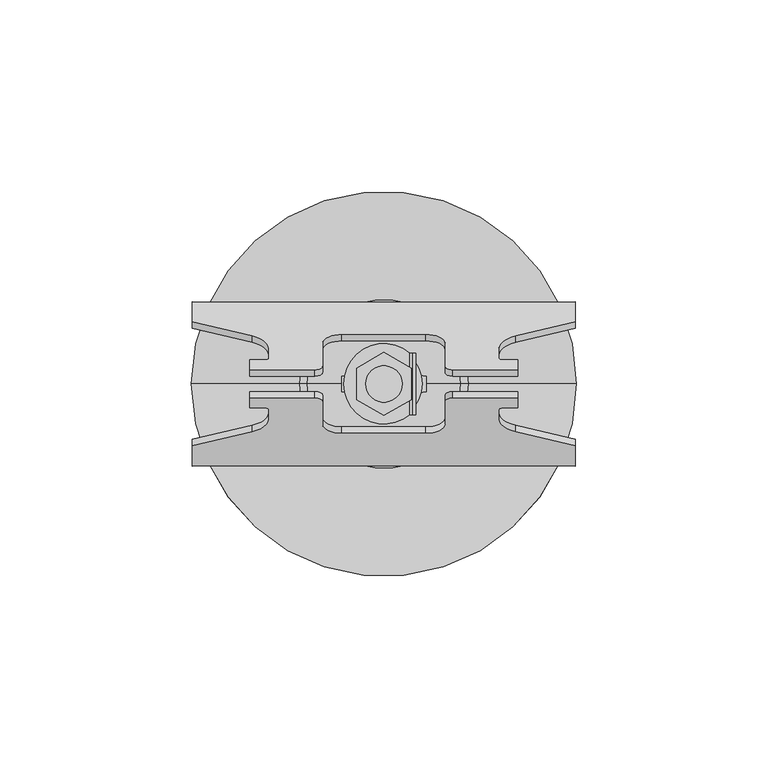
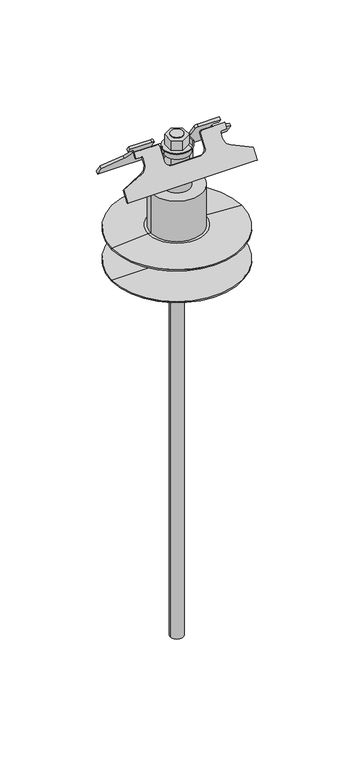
"""IFC4 building model written with IfcOpenShell, lengths in millimetres: proxy geometry, Kwiktrak Track Bracket (Bracket & Threaded Rod & Ceiling Plate) - ARJO - Revit2017 - REV0 : AH-Kwiktrak track bracket."""

from ifc_helpers import new_model, si_unit, point, frame, frame_2d, origin, origin_with_axes, origin_2d, place, context, project, spatial, polyline, circle_curve, ellipse_curve, trimmed, segment, composite_curve, outline, extrude, source, transform, mapped, element, save
from ifc_brep_helpers import plane_surface, cylinder_surface, revolved_surface, extruded_surface, advanced_brep


def specialty_equipment_05e438e0(model_context):
    return source(origin(), model_context, "Body", "SolidModel", [
        extrude(outline(composite_curve([segment(trimmed(circle_curve(frame_2d((-11.0457639, -6.432)), 4.4), [point((-7.2434355, -4.2178864))], [point((-11.0457639, -2.032))], True, "CARTESIAN"), True, "CONTINUOUS"), segment(polyline([(-11.0457639, -2.032), (-11.0457639, 2.032)]), True, "CONTINUOUS"), segment(trimmed(circle_curve(frame_2d((-11.0457639, 6.432)), 4.4), [point((-11.0457639, 2.032))], [point((-7.2434355, 4.2178864))], True, "CARTESIAN"), True, "CONTINUOUS"), segment(trimmed(circle_curve(origin_2d(), 8.382), [point((-7.2434355, 4.2178864))], [point((7.2434355, 4.2178864))], False, "CARTESIAN"), True, "CONTINUOUS"), segment(trimmed(circle_curve(frame_2d((11.0457639, 6.432)), 4.4), [point((7.2434355, 4.2178864))], [point((11.0457639, 2.032))], True, "CARTESIAN"), True, "CONTINUOUS"), segment(polyline([(11.0457639, 2.032), (11.0457639, -2.032)]), True, "CONTINUOUS"), segment(trimmed(circle_curve(frame_2d((11.0457639, -6.432)), 4.4), [point((11.0457639, -2.032))], [point((7.2434355, -4.2178864))], True, "CARTESIAN"), True, "CONTINUOUS"), segment(trimmed(circle_curve(origin_2d(), 8.382), [point((7.2434355, -4.2178864))], [point((-7.2434355, -4.2178864))], False, "CARTESIAN"), True, "CONTINUOUS")], self_intersect=False)), frame((0.0, 0.0, 52.6432413), z_axis=(0.0, 0.0, 1.0), x_axis=(1.0, 0.0, 0.0)), (0.0, 0.0, 1.0), 10.7557441),
        advanced_brep(
        [(-10.0, 0.0, 41.8115), (-10.0, 0.0, 35.8632413), (10.0, 0.0, 35.8632413), (10.0, 0.0, 41.8115), (-8.0161454, 0.0, 42.3315717), (-9.4977725, 0.0, 42.3315717), (9.4977725, 0.0, 42.3315717), (8.0161454, 0.0, 42.3315717), (-7.5, 0.0, 52.6432413), (-7.5, 0.0, 42.9176284), (7.5, 0.0, 42.9176284), (7.5, 0.0, 52.6432413), (0.0, 0.0, 52.6432413), (0.0, 0.0, 35.8632413)],
        [
            (0, 1),
            (1, 2, circle_curve(frame((0.0, 0.0, 35.8632413), z_axis=(0.0, 0.0, 1.0), x_axis=(1.0, 0.0, 0.0)), 10.0)),
            (2, 3),
            (3, 0, circle_curve(frame((0.0, 0.0, 41.8115), z_axis=(0.0, 0.0, -1.0), x_axis=(1.0, 0.0, 0.0)), 10.0)),
            (2, 1, circle_curve(frame((0.0, 0.0, 35.8632413), z_axis=(0.0, 0.0, 1.0), x_axis=(1.0, 0.0, 0.0)), 10.0)),
            (0, 3, circle_curve(frame((0.0, 0.0, 41.8115), z_axis=(0.0, 0.0, -1.0), x_axis=(1.0, 0.0, 0.0)), 10.0)),
            (4, 5),
            (5, 6, circle_curve(frame((0.0, 0.0, 42.3315717), z_axis=(0.0, 0.0, 1.0), x_axis=(1.0, 0.0, 0.0)), 9.4977725)),
            (6, 7),
            (7, 4, circle_curve(frame((0.0, 0.0, 42.3315717), z_axis=(0.0, 0.0, -1.0), x_axis=(1.0, 0.0, 0.0)), 8.0161454)),
            (6, 5, circle_curve(frame((0.0, 0.0, 42.3315717), z_axis=(0.0, 0.0, 1.0), x_axis=(1.0, 0.0, 0.0)), 9.4977725)),
            (4, 7, circle_curve(frame((0.0, 0.0, 42.3315717), z_axis=(0.0, 0.0, -1.0), x_axis=(1.0, 0.0, 0.0)), 8.0161454)),
            (8, 9),
            (9, 10, circle_curve(frame((0.0, 0.0, 42.9176284), z_axis=(0.0, 0.0, 1.0), x_axis=(1.0, 0.0, 0.0)), 7.5)),
            (10, 11),
            (11, 8, circle_curve(frame((0.0, 0.0, 52.6432413), z_axis=(0.0, 0.0, -1.0), x_axis=(1.0, 0.0, 0.0)), 7.5)),
            (10, 9, circle_curve(frame((0.0, 0.0, 42.9176284), z_axis=(0.0, 0.0, 1.0), x_axis=(1.0, 0.0, 0.0)), 7.5)),
            (8, 11, circle_curve(frame((0.0, 0.0, 52.6432413), z_axis=(0.0, 0.0, -1.0), x_axis=(1.0, 0.0, 0.0)), 7.5)),
            (12, 8),
            (11, 12),
            (1, 13),
            (13, 2),
            (5, 0, circle_curve(frame((-9.4796112, 0.0, 41.8115), z_axis=(0.0, -1.0, 0.0), x_axis=(-1.0, 0.0, 0.0)), 0.5203888)),
            (3, 6, circle_curve(frame((9.4796112, 0.0, 41.8115), z_axis=(0.0, -1.0, 0.0), x_axis=(1.0, 0.0, 0.0)), 0.5203888)),
            (9, 4, circle_curve(frame((-8.0346369, 0.0, 42.9176284), z_axis=(0.0, 1.0, 0.0), x_axis=(-1.0, 0.0, 0.0)), 0.5346369)),
            (7, 10, circle_curve(frame((8.0346369, 0.0, 42.9176284), z_axis=(0.0, 1.0, 0.0), x_axis=(1.0, 0.0, 0.0)), 0.5346369)),
        ],
        [
            cylinder_surface(frame((0.0, 0.0, 1989.6192677), z_axis=(0.0, 0.0, 1.0), x_axis=(1.0, 0.0, 0.0)), 10.0),
            plane_surface(frame((0.0, 0.0, 42.3315717), z_axis=(0.0, 0.0, 1.0), x_axis=(1.0, 0.0, 0.0))),
            cylinder_surface(frame((0.0, 0.0, 1989.6192677), z_axis=(0.0, 0.0, 1.0), x_axis=(1.0, 0.0, 0.0)), 7.5),
            plane_surface(frame((0.0, 0.0, 52.6432413), z_axis=(0.0, 0.0, 1.0), x_axis=(1.0, 0.0, 0.0))),
            plane_surface(frame((0.0, 0.0, 35.8632413), z_axis=(0.0, 0.0, -1.0), x_axis=(1.0, 0.0, 0.0))),
            revolved_surface(trimmed(ellipse_curve(frame((9.4796112, 0.0, 41.8115), z_axis=(0.0, -1.0, 0.0), x_axis=(1.0, 0.0, 0.0)), 0.5203888, 0.5203888), [point((10.0, 0.0, 41.8115))], [point((9.4977725, 0.0, 42.3315717))], True, "CARTESIAN"), (0.0, 0.0, 1989.6192677), (0.0, 0.0, 1.0)),
            revolved_surface(trimmed(ellipse_curve(frame((8.0346369, 0.0, 42.9176284), z_axis=(0.0, 1.0, 0.0), x_axis=(1.0, 0.0, 0.0)), 0.5346369, 0.5346369), [point((8.0159784, 0.0, 42.3833171))], [point((7.5, 0.0, 42.9176284))], True, "CARTESIAN"), (0.0, 0.0, 1989.6192677), (0.0, 0.0, 1.0)),
        ],
        [
            (0, [[1, 2, 3, 4]]),
            (0, [[-3, 5, -1, 6]]),
            (1, [[7, 8, 9, 10]]),
            (1, [[-9, 11, -7, 12]]),
            (2, [[13, 14, 15, 16]]),
            (2, [[-15, 17, -13, 18]]),
            (3, [[19, -16, 20]]),
            (3, [[-20, -18, -19]]),
            (4, [[21, 22, -2]]),
            (4, [[-22, -21, -5]]),
            (5, [[23, -4, 24, -8]]),
            (5, [[-24, -6, -23, -11]]),
            (6, [[25, -10, 26, -14]]),
            (6, [[-26, -12, -25, -17]]),
        ],
    ),
        extrude(outline(composite_curve([segment(trimmed(circle_curve(frame_2d((69.2180114, 6.75)), 0.7447701), [point((69.2180114, 7.4947701))], [point((68.4732413, 6.75))], True, "CARTESIAN"), True, "CONTINUOUS"), segment(polyline([(68.4732413, 6.75), (67.6732413, 6.75)]), True, "CONTINUOUS"), segment(trimmed(circle_curve(frame_2d((69.2180114, 6.75)), 1.5447701), [point((67.6732413, 6.75))], [point((69.2180114, 8.2947701))], False, "CARTESIAN"), True, "CONTINUOUS"), segment(polyline([(69.2180114, 8.2947701), (73.9063719, 8.2947701), (73.9063719, 7.4947701), (69.2180114, 7.4947701)]), True, "CONTINUOUS")], self_intersect=False)), frame((0.0, -8.042854, 0.0), z_axis=(0.0, 1.0, 0.0), x_axis=(0.0, 0.0, 1.0)), (0.0, 0.0, 1.0), 16.0857079),
        extrude(outline(composite_curve([segment(polyline([(6.75, 8.042854), (6.75, -8.042854)]), True, "CONTINUOUS"), segment(trimmed(circle_curve(origin_2d(), 10.5), [point((6.75, -8.042854))], [point((6.75, 8.042854))], False, "CARTESIAN"), True, "CONTINUOUS")], self_intersect=False)), frame((0.0, 0.0, 67.6732413), z_axis=(0.0, 0.0, 1.0), x_axis=(1.0, 0.0, 0.0)), (0.0, 0.0, 1.0), 0.8),
        extrude(outline(composite_curve([segment(trimmed(circle_curve(origin_2d(), 10.0), [point((-10.0, 0.0))], [point((10.0, 0.0))], False, "CARTESIAN"), True, "CONTINUOUS"), segment(trimmed(circle_curve(origin_2d(), 10.0), [point((10.0, 0.0))], [point((-10.0, 0.0))], False, "CARTESIAN"), True, "CONTINUOUS")], self_intersect=False)), frame((0.0, 0.0, 63.3520872), z_axis=(0.0, 0.0, 1.0), x_axis=(1.0, 0.0, 0.0)), (0.0, 0.0, 1.0), 4.321154),
        advanced_brep(
        [(-30.0, -6.7435928, 72.2514851), (-30.0, -9.1615899, 68.7594538), (-34.4018702, -12.5057424, 63.9298843), (-50.0, -16.1820364, 58.6206415), (-50.0, -21.4664808, 50.9889346), (-48.0, -21.3494734, 51.1579148), (48.0, -21.3494734, 51.1579148), (50.0, -21.4664808, 50.9889346), (50.0, -16.1820364, 58.6206415), (34.4018702, -12.5057424, 63.9298843), (30.0, -9.1615899, 68.7594538), (30.0, -6.7435928, 72.2514851), (31.0, -6.275563, 72.927406), (35.0, -6.275563, 72.927406), (35.0, -3.7095132, 76.6332526), (18.0, -3.7095132, 76.6332526), (16.0, -4.6455727, 75.2814109), (16.0, -10.5656792, 66.7316914), (11.0, -12.9058281, 63.3520872), (-11.0, -12.9058281, 63.3520872), (-16.0, -10.5656792, 66.7316914), (-16.0, -4.6455727, 75.2814109), (-18.0, -3.7095132, 76.6332526), (-35.0, -3.7095132, 76.6332526), (-35.0, -6.275563, 72.927406), (-31.0, -6.275563, 72.927406), (-30.0, -5.0713515, 71.0935704), (-31.0, -4.6033217, 71.7694912), (-35.0, -4.6033217, 71.7694912), (-35.0, -2.0372719, 75.4753378), (-18.0, -2.0372719, 75.4753378), (-16.0, -2.9733314, 74.1234961), (-16.0, -8.8934379, 65.5737766), (-11.0, -11.2335867, 62.1941725), (11.0, -11.2335867, 62.1941725), (16.0, -8.8934379, 65.5737766), (16.0, -2.9733314, 74.1234961), (18.0, -2.0372719, 75.4753378), (35.0, -2.0372719, 75.4753378), (35.0, -4.6033217, 71.7694912), (31.0, -4.6033217, 71.7694912), (30.0, -5.0713515, 71.0935704), (30.0, -7.4893486, 67.6015391), (34.4018702, -10.8335011, 62.7719695), (50.0, -14.5097951, 57.4627267), (50.0, -19.7942395, 49.8310198), (48.0, -19.6772321, 50.0), (-48.0, -19.6772321, 50.0), (-50.0, -19.7942395, 49.8310198), (-50.0, -14.5097951, 57.4627267), (-34.4018702, -10.8335011, 62.7719695), (-30.0, -7.4893486, 67.6015391)],
        [
            (0, 1),
            (1, 2, ellipse_curve(frame((-38.0, -9.1615899, 68.7594538), z_axis=(0.0, 0.8221440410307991, -0.5692795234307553), x_axis=(-1.0, 0.0, 0.0)), 8.0, 6.5771523)),
            (2, 3),
            (3, 4),
            (4, 5),
            (5, 6),
            (6, 7),
            (7, 8),
            (8, 9),
            (9, 10, ellipse_curve(frame((38.0, -9.1615899, 68.7594538), z_axis=(0.0, 0.8221440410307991, -0.5692795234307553), x_axis=(-1.0, 0.0, 0.0)), 8.0, 6.5771523)),
            (10, 11),
            (11, 12, ellipse_curve(frame((31.0, -6.7435928, 72.2514851), z_axis=(0.0, 0.8221440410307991, -0.5692795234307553), x_axis=(-1.0, 0.0, 0.0)), 1.0, 0.822144)),
            (12, 13),
            (13, 14),
            (14, 15),
            (15, 16, ellipse_curve(frame((18.0, -4.6455727, 75.2814109), z_axis=(0.0, -0.8221440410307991, 0.5692795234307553), x_axis=(1.0, 0.0, 0.0)), 2.0, 1.6442881)),
            (16, 17),
            (17, 18, ellipse_curve(frame((11.0, -10.5656792, 66.7316914), z_axis=(0.0, 0.8221440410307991, -0.5692795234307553), x_axis=(1.0, 0.0, 0.0)), 5.0, 4.1107202)),
            (18, 19),
            (19, 20, ellipse_curve(frame((-11.0, -10.5656792, 66.7316914), z_axis=(0.0, 0.8221440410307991, -0.5692795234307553), x_axis=(1.0, 0.0, 0.0)), 5.0, 4.1107202)),
            (20, 21),
            (21, 22, ellipse_curve(frame((-18.0, -4.6455727, 75.2814109), z_axis=(0.0, -0.8221440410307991, 0.5692795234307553), x_axis=(1.0, 0.0, 0.0)), 2.0, 1.6442881)),
            (22, 23),
            (23, 24),
            (24, 25),
            (25, 0, ellipse_curve(frame((-31.0, -6.7435928, 72.2514851), z_axis=(0.0, 0.8221440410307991, -0.5692795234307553), x_axis=(-1.0, 0.0, 0.0)), 1.0, 0.822144)),
            (26, 27, ellipse_curve(frame((-31.0, -5.0713515, 71.0935704), z_axis=(0.0, -0.8221440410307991, 0.5692795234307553), x_axis=(-1.0, 0.0, 0.0)), 1.0, 0.822144)),
            (27, 28),
            (28, 29),
            (29, 30),
            (30, 31, ellipse_curve(frame((-18.0, -2.9733314, 74.1234961), z_axis=(0.0, 0.8221440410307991, -0.5692795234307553), x_axis=(1.0, 0.0, 0.0)), 2.0, 1.6442881)),
            (31, 32),
            (32, 33, ellipse_curve(frame((-11.0, -8.8934379, 65.5737766), z_axis=(0.0, -0.8221440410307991, 0.5692795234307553), x_axis=(1.0, 0.0, 0.0)), 5.0, 4.1107202)),
            (33, 34),
            (34, 35, ellipse_curve(frame((11.0, -8.8934379, 65.5737766), z_axis=(0.0, -0.8221440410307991, 0.5692795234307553), x_axis=(1.0, 0.0, 0.0)), 5.0, 4.1107202)),
            (35, 36),
            (36, 37, ellipse_curve(frame((18.0, -2.9733314, 74.1234961), z_axis=(0.0, 0.8221440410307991, -0.5692795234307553), x_axis=(1.0, 0.0, 0.0)), 2.0, 1.6442881)),
            (37, 38),
            (38, 39),
            (39, 40),
            (40, 41, ellipse_curve(frame((31.0, -5.0713515, 71.0935704), z_axis=(0.0, -0.8221440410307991, 0.5692795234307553), x_axis=(-1.0, 0.0, 0.0)), 1.0, 0.822144)),
            (41, 42),
            (42, 43, ellipse_curve(frame((38.0, -7.4893486, 67.6015391), z_axis=(0.0, -0.8221440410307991, 0.5692795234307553), x_axis=(-1.0, 0.0, 0.0)), 8.0, 6.5771523)),
            (43, 44),
            (44, 45),
            (45, 46),
            (46, 47),
            (47, 48),
            (48, 49),
            (49, 50),
            (50, 51, ellipse_curve(frame((-38.0, -7.4893486, 67.6015391), z_axis=(0.0, -0.8221440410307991, 0.5692795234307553), x_axis=(-1.0, 0.0, 0.0)), 8.0, 6.5771523)),
            (51, 26),
            (0, 26),
            (51, 1),
            (50, 2),
            (49, 3),
            (48, 4),
            (47, 5),
            (46, 6),
            (45, 7),
            (44, 8),
            (43, 9),
            (42, 10),
            (41, 11),
            (40, 12),
            (39, 13),
            (38, 14),
            (37, 15),
            (36, 16),
            (35, 17),
            (34, 18),
            (33, 19),
            (32, 20),
            (31, 21),
            (30, 22),
            (29, 23),
            (28, 24),
            (27, 25),
        ],
        [
            plane_surface(frame((-32.0, -6.7435928, 72.2514851), z_axis=(0.0, -0.8221440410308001, 0.5692795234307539), x_axis=(0.0, -0.5692795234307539, -0.8221440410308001))),
            plane_surface(frame((-32.0, -5.0713515, 71.0935704), z_axis=(0.0, 0.8221440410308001, -0.5692795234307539), x_axis=(0.0, 0.5692795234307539, 0.8221440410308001))),
            plane_surface(frame((-30.0, -9.1615899, 68.7594538), z_axis=(-1.0, 0.0, 0.0), x_axis=(0.0, 0.8221440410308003, -0.5692795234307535))),
            extruded_surface(trimmed(ellipse_curve(frame((-38.0, -7.4893486, 67.6015391), z_axis=(0.0, -0.8221440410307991, 0.5692795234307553), x_axis=(-1.0, 0.0, 0.0)), 8.0, 6.5771523), [point((-34.4018702, -10.8335011, 62.7719695))], [point((-30.0, -7.4893486, 67.6015391))], True, "CARTESIAN"), (0.0, 1.6722412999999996, -1.1579148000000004), 2.034000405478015),
            plane_surface(frame((-50.0, -16.1820364, 58.6206415), z_axis=(-0.38252387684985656, 0.5259833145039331, 0.7596163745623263), x_axis=(0.0, 0.8221440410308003, -0.5692795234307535))),
            plane_surface(frame((-50.0, -21.4664808, 50.9889346), z_axis=(-1.0, 0.0, 0.0), x_axis=(0.0, 0.8221440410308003, -0.5692795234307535))),
            plane_surface(frame((-48.0, -21.3494734, 51.1579148), z_axis=(0.10222958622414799, -0.5662969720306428, -0.8178366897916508), x_axis=(0.0, 0.8221440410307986, -0.5692795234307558))),
            plane_surface(frame((48.0, -21.3494734, 51.1579148), z_axis=(0.0, -0.5692795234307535, -0.8221440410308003), x_axis=(0.0, 0.8221440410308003, -0.5692795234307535))),
            plane_surface(frame((50.0, -21.4664808, 50.9889346), z_axis=(-0.10222958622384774, -0.5662969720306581, -0.8178366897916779), x_axis=(0.0, 0.8221440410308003, -0.5692795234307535))),
            plane_surface(frame((50.0, -16.1820364, 58.6206415), z_axis=(1.0, 0.0, 0.0), x_axis=(0.0, 0.822144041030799, -0.5692795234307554))),
            plane_surface(frame((34.4018702, -12.5057424, 63.9298843), z_axis=(0.3825238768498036, 0.5259833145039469, 0.7596163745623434), x_axis=(0.0, 0.8221440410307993, -0.5692795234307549))),
            extruded_surface(trimmed(ellipse_curve(frame((38.0, -7.4893486, 67.6015391), z_axis=(0.0, -0.8221440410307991, 0.5692795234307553), x_axis=(-1.0, 0.0, 0.0)), 8.0, 6.5771523), [point((30.0, -7.4893486, 67.6015391))], [point((34.4018702, -10.8335011, 62.7719695))], True, "CARTESIAN"), (0.0, 1.6722412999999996, -1.1579148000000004), 2.034000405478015),
            plane_surface(frame((30.0, -6.7435928, 72.2514851), z_axis=(1.0, 0.0, 0.0), x_axis=(0.0, 0.8221440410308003, -0.5692795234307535))),
            extruded_surface(trimmed(ellipse_curve(frame((31.0, -5.0713515, 71.0935704), z_axis=(0.0, -0.8221440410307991, 0.5692795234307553), x_axis=(-1.0, 0.0, 0.0)), 1.0, 0.822144), [point((31.0, -4.6033217, 71.7694912))], [point((30.0, -5.0713515, 71.0935704))], True, "CARTESIAN"), (0.0, 1.6722412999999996, -1.1579148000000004), 2.034000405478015),
            plane_surface(frame((35.0, -6.275563, 72.927406), z_axis=(0.0, -0.5692795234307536, -0.8221440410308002), x_axis=(0.0, 0.8221440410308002, -0.5692795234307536))),
            plane_surface(frame((35.0, -3.7095132, 76.6332526), z_axis=(1.0000000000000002, 0.0, 0.0), x_axis=(0.0, 0.8221440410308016, -0.5692795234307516))),
            plane_surface(frame((18.0, -3.7095132, 76.6332526), z_axis=(0.0, 0.5692795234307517, 0.8221440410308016), x_axis=(0.0, 0.8221440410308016, -0.5692795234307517))),
            extruded_surface(trimmed(ellipse_curve(frame((18.0, -2.9733314, 74.1234961), z_axis=(0.0, 0.8221440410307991, -0.5692795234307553), x_axis=(1.0, 0.0, 0.0)), 2.0, 1.6442881), [point((16.0, -2.9733314, 74.1234961))], [point((18.0, -2.0372719, 75.4753378))], True, "CARTESIAN"), (0.0, 1.6722413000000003, -1.1579148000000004), 2.0340004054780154),
            plane_surface(frame((16.0, -10.5656792, 66.7316914), z_axis=(-1.0, 0.0, 0.0), x_axis=(0.0, 0.822144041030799, -0.5692795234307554))),
            extruded_surface(trimmed(ellipse_curve(frame((11.0, -8.8934379, 65.5737766), z_axis=(0.0, -0.8221440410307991, 0.5692795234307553), x_axis=(1.0, 0.0, 0.0)), 5.0, 4.1107202), [point((11.0, -11.2335867, 62.1941725))], [point((16.0, -8.8934379, 65.5737766))], True, "CARTESIAN"), (0.0, 1.6722413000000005, -1.1579148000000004), 2.034000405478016),
            plane_surface(frame((-11.0, -12.9058281, 63.3520872), z_axis=(0.0, 0.5692795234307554, 0.822144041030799), x_axis=(0.0, 0.822144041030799, -0.5692795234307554))),
            extruded_surface(trimmed(ellipse_curve(frame((-11.0, -8.8934379, 65.5737766), z_axis=(0.0, -0.8221440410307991, 0.5692795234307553), x_axis=(1.0, 0.0, 0.0)), 5.0, 4.1107202), [point((-16.0, -8.8934379, 65.5737766))], [point((-11.0, -11.2335867, 62.1941725))], True, "CARTESIAN"), (0.0, 1.6722413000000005, -1.1579148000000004), 2.034000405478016),
            plane_surface(frame((-16.0, -4.6455727, 75.2814109), z_axis=(1.0000000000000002, 0.0, 0.0), x_axis=(0.0, 0.8221440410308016, -0.5692795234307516))),
            extruded_surface(trimmed(ellipse_curve(frame((-18.0, -2.9733314, 74.1234961), z_axis=(0.0, 0.8221440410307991, -0.5692795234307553), x_axis=(1.0, 0.0, 0.0)), 2.0, 1.6442881), [point((-18.0, -2.0372719, 75.4753378))], [point((-16.0, -2.9733314, 74.1234961))], True, "CARTESIAN"), (0.0, 1.6722413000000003, -1.1579148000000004), 2.0340004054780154),
            plane_surface(frame((-35.0, -3.7095132, 76.6332526), z_axis=(0.0, 0.5692795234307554, 0.822144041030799), x_axis=(0.0, 0.822144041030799, -0.5692795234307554))),
            plane_surface(frame((-35.0, -6.275563, 72.927406), z_axis=(-1.0, 0.0, 0.0), x_axis=(0.0, 0.8221440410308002, -0.5692795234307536))),
            plane_surface(frame((-31.0, -6.275563, 72.927406), z_axis=(0.0, -0.5692795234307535, -0.8221440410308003), x_axis=(0.0, 0.8221440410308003, -0.5692795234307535))),
            extruded_surface(trimmed(ellipse_curve(frame((-31.0, -5.0713515, 71.0935704), z_axis=(0.0, -0.8221440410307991, 0.5692795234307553), x_axis=(-1.0, 0.0, 0.0)), 1.0, 0.822144), [point((-30.0, -5.0713515, 71.0935704))], [point((-31.0, -4.6033217, 71.7694912))], True, "CARTESIAN"), (0.0, 1.6722412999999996, -1.1579148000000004), 2.034000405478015),
        ],
        [
            (0, [[1, 2, 3, 4, 5, 6, 7, 8, 9, 10, 11, 12, 13, 14, 15, 16, 17, 18, 19, 20, 21, 22, 23, 24, 25, 26]]),
            (1, [[27, 28, 29, 30, 31, 32, 33, 34, 35, 36, 37, 38, 39, 40, 41, 42, 43, 44, 45, 46, 47, 48, 49, 50, 51, 52]]),
            (2, [[53, -52, 54, -1]]),
            (3, [[-54, -51, 55, -2]]),
            (4, [[-55, -50, 56, -3]]),
            (5, [[-56, -49, 57, -4]]),
            (6, [[-57, -48, 58, -5]]),
            (7, [[-58, -47, 59, -6]]),
            (8, [[-59, -46, 60, -7]]),
            (9, [[-60, -45, 61, -8]]),
            (10, [[-61, -44, 62, -9]]),
            (11, [[-62, -43, 63, -10]]),
            (12, [[-63, -42, 64, -11]]),
            (13, [[-64, -41, 65, -12]]),
            (14, [[-65, -40, 66, -13]]),
            (15, [[-66, -39, 67, -14]]),
            (16, [[-67, -38, 68, -15]]),
            (17, [[-68, -37, 69, -16]]),
            (18, [[-69, -36, 70, -17]]),
            (19, [[-70, -35, 71, -18]]),
            (20, [[-71, -34, 72, -19]]),
            (21, [[-72, -33, 73, -20]]),
            (22, [[-73, -32, 74, -21]]),
            (23, [[-74, -31, 75, -22]]),
            (24, [[-75, -30, 76, -23]]),
            (25, [[-76, -29, 77, -24]]),
            (26, [[-77, -28, 78, -25]]),
            (27, [[-78, -27, -53, -26]]),
        ],
    ),
        advanced_brep(
        [(-30.0, 6.7435928, 72.2514851), (-31.0, 6.275563, 72.927406), (-35.0, 6.275563, 72.927406), (-35.0, 3.7095132, 76.6332526), (-18.0, 3.7095132, 76.6332526), (-16.0, 4.6455727, 75.2814109), (-16.0, 10.5656792, 66.7316914), (-11.0, 12.9058281, 63.3520872), (11.0, 12.9058281, 63.3520872), (16.0, 10.5656792, 66.7316914), (16.0, 4.6455727, 75.2814109), (18.0, 3.7095132, 76.6332526), (35.0, 3.7095132, 76.6332526), (35.0, 6.275563, 72.927406), (31.0, 6.275563, 72.927406), (30.0, 6.7435928, 72.2514851), (30.0, 9.1615899, 68.7594538), (34.4018702, 12.5057424, 63.9298843), (50.0, 16.1820364, 58.6206415), (50.0, 21.4664808, 50.9889346), (48.0, 21.3494734, 51.1579148), (-48.0, 21.3494734, 51.1579148), (-50.0, 21.4664808, 50.9889346), (-50.0, 16.1820364, 58.6206415), (-34.4018702, 12.5057424, 63.9298843), (-30.0, 9.1615899, 68.7594538), (-30.0, 5.0713515, 71.0935704), (-30.0, 7.4893486, 67.6015391), (-34.4018702, 10.8335011, 62.7719695), (-50.0, 14.5097951, 57.4627267), (-50.0, 19.7942395, 49.8310198), (-48.0, 19.6772321, 50.0), (48.0, 19.6772321, 50.0), (50.0, 19.7942395, 49.8310198), (50.0, 14.5097951, 57.4627267), (34.4018702, 10.8335011, 62.7719695), (30.0, 7.4893486, 67.6015391), (30.0, 5.0713515, 71.0935704), (31.0, 4.6033217, 71.7694912), (35.0, 4.6033217, 71.7694912), (35.0, 2.0372719, 75.4753378), (18.0, 2.0372719, 75.4753378), (16.0, 2.9733314, 74.1234961), (16.0, 8.8934379, 65.5737766), (11.0, 11.2335867, 62.1941725), (-11.0, 11.2335867, 62.1941725), (-16.0, 8.8934379, 65.5737766), (-16.0, 2.9733314, 74.1234961), (-18.0, 2.0372719, 75.4753378), (-35.0, 2.0372719, 75.4753378), (-35.0, 4.6033217, 71.7694912), (-31.0, 4.6033217, 71.7694912)],
        [
            (0, 1, ellipse_curve(frame((-31.0, 6.7435928, 72.2514851), z_axis=(0.0, -0.8221440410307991, -0.5692795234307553), x_axis=(-1.0, 0.0, 0.0)), 1.0, 0.822144)),
            (1, 2),
            (2, 3),
            (3, 4),
            (4, 5, ellipse_curve(frame((-18.0, 4.6455727, 75.2814109), z_axis=(0.0, 0.8221440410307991, 0.5692795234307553), x_axis=(1.0, 0.0, 0.0)), 2.0, 1.6442881)),
            (5, 6),
            (6, 7, ellipse_curve(frame((-11.0, 10.5656792, 66.7316914), z_axis=(0.0, -0.8221440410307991, -0.5692795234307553), x_axis=(1.0, 0.0, 0.0)), 5.0, 4.1107202)),
            (7, 8),
            (8, 9, ellipse_curve(frame((11.0, 10.5656792, 66.7316914), z_axis=(0.0, -0.8221440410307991, -0.5692795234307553), x_axis=(1.0, 0.0, 0.0)), 5.0, 4.1107202)),
            (9, 10),
            (10, 11, ellipse_curve(frame((18.0, 4.6455727, 75.2814109), z_axis=(0.0, 0.8221440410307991, 0.5692795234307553), x_axis=(1.0, 0.0, 0.0)), 2.0, 1.6442881)),
            (11, 12),
            (12, 13),
            (13, 14),
            (14, 15, ellipse_curve(frame((31.0, 6.7435928, 72.2514851), z_axis=(0.0, -0.8221440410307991, -0.5692795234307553), x_axis=(-1.0, 0.0, 0.0)), 1.0, 0.822144)),
            (15, 16),
            (16, 17, ellipse_curve(frame((38.0, 9.1615899, 68.7594538), z_axis=(0.0, -0.8221440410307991, -0.5692795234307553), x_axis=(-1.0, 0.0, 0.0)), 8.0, 6.5771523)),
            (17, 18),
            (18, 19),
            (19, 20),
            (20, 21),
            (21, 22),
            (22, 23),
            (23, 24),
            (24, 25, ellipse_curve(frame((-38.0, 9.1615899, 68.7594538), z_axis=(0.0, -0.8221440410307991, -0.5692795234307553), x_axis=(-1.0, 0.0, 0.0)), 8.0, 6.5771523)),
            (25, 0),
            (26, 27),
            (27, 28, ellipse_curve(frame((-38.0, 7.4893486, 67.6015391), z_axis=(0.0, 0.8221440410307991, 0.5692795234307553), x_axis=(-1.0, 0.0, 0.0)), 8.0, 6.5771523)),
            (28, 29),
            (29, 30),
            (30, 31),
            (31, 32),
            (32, 33),
            (33, 34),
            (34, 35),
            (35, 36, ellipse_curve(frame((38.0, 7.4893486, 67.6015391), z_axis=(0.0, 0.8221440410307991, 0.5692795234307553), x_axis=(-1.0, 0.0, 0.0)), 8.0, 6.5771523)),
            (36, 37),
            (37, 38, ellipse_curve(frame((31.0, 5.0713515, 71.0935704), z_axis=(0.0, 0.8221440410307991, 0.5692795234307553), x_axis=(-1.0, 0.0, 0.0)), 1.0, 0.822144)),
            (38, 39),
            (39, 40),
            (40, 41),
            (41, 42, ellipse_curve(frame((18.0, 2.9733314, 74.1234961), z_axis=(0.0, -0.8221440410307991, -0.5692795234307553), x_axis=(1.0, 0.0, 0.0)), 2.0, 1.6442881)),
            (42, 43),
            (43, 44, ellipse_curve(frame((11.0, 8.8934379, 65.5737766), z_axis=(0.0, 0.8221440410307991, 0.5692795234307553), x_axis=(1.0, 0.0, 0.0)), 5.0, 4.1107202)),
            (44, 45),
            (45, 46, ellipse_curve(frame((-11.0, 8.8934379, 65.5737766), z_axis=(0.0, 0.8221440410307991, 0.5692795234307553), x_axis=(1.0, 0.0, 0.0)), 5.0, 4.1107202)),
            (46, 47),
            (47, 48, ellipse_curve(frame((-18.0, 2.9733314, 74.1234961), z_axis=(0.0, -0.8221440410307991, -0.5692795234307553), x_axis=(1.0, 0.0, 0.0)), 2.0, 1.6442881)),
            (48, 49),
            (49, 50),
            (50, 51),
            (51, 26, ellipse_curve(frame((-31.0, 5.0713515, 71.0935704), z_axis=(0.0, 0.8221440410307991, 0.5692795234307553), x_axis=(-1.0, 0.0, 0.0)), 1.0, 0.822144)),
            (25, 27),
            (26, 0),
            (24, 28),
            (23, 29),
            (22, 30),
            (21, 31),
            (20, 32),
            (19, 33),
            (18, 34),
            (17, 35),
            (16, 36),
            (15, 37),
            (14, 38),
            (13, 39),
            (12, 40),
            (11, 41),
            (10, 42),
            (9, 43),
            (8, 44),
            (7, 45),
            (6, 46),
            (5, 47),
            (4, 48),
            (3, 49),
            (2, 50),
            (1, 51),
        ],
        [
            plane_surface(frame((-30.0, 13.9975841, 61.7753912), z_axis=(0.0, 0.8221440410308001, 0.5692795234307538), x_axis=(0.0, 0.5692795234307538, -0.8221440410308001))),
            plane_surface(frame((-30.0, 12.3253428, 60.6174765), z_axis=(0.0, -0.8221440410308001, -0.5692795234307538), x_axis=(0.0, -0.5692795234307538, 0.8221440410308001))),
            plane_surface(frame((-30.0, 6.7435928, 72.2514851), z_axis=(-1.0, 0.0, 0.0), x_axis=(0.0, -0.8221440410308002, -0.5692795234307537))),
            extruded_surface(trimmed(ellipse_curve(frame((-38.0, 7.4893486, 67.6015391), z_axis=(0.0, 0.8221440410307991, 0.5692795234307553), x_axis=(-1.0, 0.0, 0.0)), 8.0, 6.5771523), [point((-30.0, 7.4893486, 67.6015391))], [point((-34.4018702, 10.8335011, 62.7719695))], True, "CARTESIAN"), (0.0, -1.6722412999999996, -1.1579148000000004), 2.034000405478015),
            plane_surface(frame((-34.4018702, 12.5057424, 63.9298843), z_axis=(-0.38252387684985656, -0.5259833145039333, 0.7596163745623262), x_axis=(0.0, -0.8221440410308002, -0.5692795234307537))),
            plane_surface(frame((-50.0, 16.1820364, 58.6206415), z_axis=(-1.0, 0.0, 0.0), x_axis=(0.0, -0.8221440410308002, -0.5692795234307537))),
            plane_surface(frame((-50.0, 21.4664808, 50.9889346), z_axis=(0.10222958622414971, 0.5662969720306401, -0.8178366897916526), x_axis=(0.0, -0.8221440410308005, -0.5692795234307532))),
            plane_surface(frame((-48.0, 21.3494734, 51.1579148), z_axis=(0.0, 0.569279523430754, -0.8221440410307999), x_axis=(0.0, -0.8221440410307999, -0.569279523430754))),
            plane_surface(frame((48.0, 21.3494734, 51.1579148), z_axis=(-0.10222958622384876, 0.56629697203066, -0.8178366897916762), x_axis=(0.0, -0.8221440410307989, -0.5692795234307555))),
            plane_surface(frame((50.0, 21.4664808, 50.9889346), z_axis=(1.0, 0.0, 0.0), x_axis=(0.0, -0.8221440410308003, -0.5692795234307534))),
            plane_surface(frame((50.0, 16.1820364, 58.6206415), z_axis=(0.3825238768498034, -0.5259833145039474, 0.7596163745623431), x_axis=(0.0, -0.8221440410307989, -0.5692795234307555))),
            extruded_surface(trimmed(ellipse_curve(frame((38.0, 7.4893486, 67.6015391), z_axis=(0.0, 0.8221440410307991, 0.5692795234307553), x_axis=(-1.0, 0.0, 0.0)), 8.0, 6.5771523), [point((34.4018702, 10.8335011, 62.7719695))], [point((30.0, 7.4893486, 67.6015391))], True, "CARTESIAN"), (0.0, -1.6722412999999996, -1.1579148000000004), 2.034000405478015),
            plane_surface(frame((30.0, 9.1615899, 68.7594538), z_axis=(1.0, 0.0, 0.0), x_axis=(0.0, -0.8221440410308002, -0.5692795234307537))),
            extruded_surface(trimmed(ellipse_curve(frame((31.0, 5.0713515, 71.0935704), z_axis=(0.0, 0.8221440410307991, 0.5692795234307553), x_axis=(-1.0, 0.0, 0.0)), 1.0, 0.822144), [point((30.0, 5.0713515, 71.0935704))], [point((31.0, 4.6033217, 71.7694912))], True, "CARTESIAN"), (0.0, -1.6722412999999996, -1.1579148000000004), 2.034000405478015),
            plane_surface(frame((31.0, 6.275563, 72.927406), z_axis=(0.0, 0.5692795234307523, -0.8221440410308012), x_axis=(0.0, -0.8221440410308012, -0.5692795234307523))),
            plane_surface(frame((35.0, 6.275563, 72.927406), z_axis=(1.0, 0.0, 0.0), x_axis=(0.0, -0.8221440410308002, -0.5692795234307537))),
            plane_surface(frame((35.0, 3.7095132, 76.6332526), z_axis=(0.0, -0.5692795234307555, 0.8221440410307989), x_axis=(0.0, -0.8221440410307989, -0.5692795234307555))),
            extruded_surface(trimmed(ellipse_curve(frame((18.0, 2.9733314, 74.1234961), z_axis=(0.0, -0.8221440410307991, -0.5692795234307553), x_axis=(1.0, 0.0, 0.0)), 2.0, 1.6442881), [point((18.0, 2.0372719, 75.4753378))], [point((16.0, 2.9733314, 74.1234961))], True, "CARTESIAN"), (0.0, -1.6722413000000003, -1.1579148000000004), 2.0340004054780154),
            plane_surface(frame((16.0, 4.6455727, 75.2814109), z_axis=(-1.0000000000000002, 0.0, 0.0), x_axis=(0.0, -0.8221440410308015, -0.5692795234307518))),
            extruded_surface(trimmed(ellipse_curve(frame((11.0, 8.8934379, 65.5737766), z_axis=(0.0, 0.8221440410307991, 0.5692795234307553), x_axis=(1.0, 0.0, 0.0)), 5.0, 4.1107202), [point((16.0, 8.8934379, 65.5737766))], [point((11.0, 11.2335867, 62.1941725))], True, "CARTESIAN"), (0.0, -1.6722413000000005, -1.1579148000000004), 2.034000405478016),
            plane_surface(frame((11.0, 12.9058281, 63.3520872), z_axis=(0.0, -0.5692795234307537, 0.8221440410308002), x_axis=(0.0, -0.8221440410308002, -0.5692795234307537))),
            extruded_surface(trimmed(ellipse_curve(frame((-11.0, 8.8934379, 65.5737766), z_axis=(0.0, 0.8221440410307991, 0.5692795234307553), x_axis=(1.0, 0.0, 0.0)), 5.0, 4.1107202), [point((-11.0, 11.2335867, 62.1941725))], [point((-16.0, 8.8934379, 65.5737766))], True, "CARTESIAN"), (0.0, -1.6722413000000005, -1.1579148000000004), 2.034000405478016),
            plane_surface(frame((-16.0, 10.5656792, 66.7316914), z_axis=(1.0, 0.0, 0.0), x_axis=(0.0, -0.8221440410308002, -0.5692795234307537))),
            extruded_surface(trimmed(ellipse_curve(frame((-18.0, 2.9733314, 74.1234961), z_axis=(0.0, -0.8221440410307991, -0.5692795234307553), x_axis=(1.0, 0.0, 0.0)), 2.0, 1.6442881), [point((-16.0, 2.9733314, 74.1234961))], [point((-18.0, 2.0372719, 75.4753378))], True, "CARTESIAN"), (0.0, -1.6722413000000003, -1.1579148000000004), 2.0340004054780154),
            plane_surface(frame((-18.0, 3.7095132, 76.6332526), z_axis=(0.0, -0.5692795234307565, 0.8221440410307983), x_axis=(0.0, -0.8221440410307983, -0.5692795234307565))),
            plane_surface(frame((-35.0, 3.7095132, 76.6332526), z_axis=(-1.0, 0.0, 0.0), x_axis=(0.0, -0.8221440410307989, -0.5692795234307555))),
            plane_surface(frame((-35.0, 6.275563, 72.927406), z_axis=(0.0, 0.569279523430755, -0.8221440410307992), x_axis=(0.0, -0.8221440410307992, -0.569279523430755))),
            extruded_surface(trimmed(ellipse_curve(frame((-31.0, 5.0713515, 71.0935704), z_axis=(0.0, 0.8221440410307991, 0.5692795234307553), x_axis=(-1.0, 0.0, 0.0)), 1.0, 0.822144), [point((-31.0, 4.6033217, 71.7694912))], [point((-30.0, 5.0713515, 71.0935704))], True, "CARTESIAN"), (0.0, -1.6722412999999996, -1.1579148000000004), 2.034000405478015),
        ],
        [
            (0, [[1, 2, 3, 4, 5, 6, 7, 8, 9, 10, 11, 12, 13, 14, 15, 16, 17, 18, 19, 20, 21, 22, 23, 24, 25, 26]]),
            (1, [[27, 28, 29, 30, 31, 32, 33, 34, 35, 36, 37, 38, 39, 40, 41, 42, 43, 44, 45, 46, 47, 48, 49, 50, 51, 52]]),
            (2, [[53, -27, 54, -26]]),
            (3, [[55, -28, -53, -25]]),
            (4, [[56, -29, -55, -24]]),
            (5, [[57, -30, -56, -23]]),
            (6, [[58, -31, -57, -22]]),
            (7, [[59, -32, -58, -21]]),
            (8, [[60, -33, -59, -20]]),
            (9, [[61, -34, -60, -19]]),
            (10, [[62, -35, -61, -18]]),
            (11, [[63, -36, -62, -17]]),
            (12, [[64, -37, -63, -16]]),
            (13, [[65, -38, -64, -15]]),
            (14, [[66, -39, -65, -14]]),
            (15, [[67, -40, -66, -13]]),
            (16, [[68, -41, -67, -12]]),
            (17, [[69, -42, -68, -11]]),
            (18, [[70, -43, -69, -10]]),
            (19, [[71, -44, -70, -9]]),
            (20, [[72, -45, -71, -8]]),
            (21, [[73, -46, -72, -7]]),
            (22, [[74, -47, -73, -6]]),
            (23, [[75, -48, -74, -5]]),
            (24, [[76, -49, -75, -4]]),
            (25, [[77, -50, -76, -3]]),
            (26, [[78, -51, -77, -2]]),
            (27, [[-54, -52, -78, -1]]),
        ],
    ),
        extrude(outline(polyline([(-7.14375, -4.124446), (-7.14375, 4.124446), (0.0, 8.248892), (7.14375, 4.124446), (7.14375, -4.124446), (0.0, -8.248892), (-7.14375, -4.124446)])), frame((0.0, 0.0, 68.4732413), z_axis=(0.0, 0.0, 1.0), x_axis=(1.0, 0.0, 0.0)), (0.0, 0.0, 1.0), 8.284375),
        extrude(outline(composite_curve([segment(trimmed(circle_curve(origin_2d(), 4.7625), [point((-4.7625, 0.0))], [point((4.7625, 0.0))], False, "CARTESIAN"), True, "CONTINUOUS"), segment(trimmed(circle_curve(origin_2d(), 4.7625), [point((4.7625, 0.0))], [point((-4.7625, 0.0))], False, "CARTESIAN"), True, "CONTINUOUS")], self_intersect=False)), frame((0.0, 0.0, 76.7576163), z_axis=(0.0, 0.0, 1.0), x_axis=(1.0, 0.0, 0.0)), (0.0, 0.0, 1.0), 1.0),
        extrude(outline(polyline([(-7.14375, -4.124446), (-7.14375, 4.124446), (0.0, 8.248892), (7.14375, 4.124446), (7.14375, -4.124446), (0.0, -8.248892), (-7.14375, -4.124446)]), holes=[composite_curve([segment(trimmed(circle_curve(origin_2d(), 5.0), [point((-5.0, 0.0))], [point((5.0, 0.0))], True, "CARTESIAN"), True, "CONTINUOUS"), segment(trimmed(circle_curve(origin_2d(), 5.0), [point((5.0, 0.0))], [point((-5.0, 0.0))], True, "CARTESIAN"), True, "CONTINUOUS")], self_intersect=False)]), frame((0.0, 0.0, -36.3), z_axis=(0.0, 0.0, 1.0), x_axis=(1.0, 0.0, 0.0)), (0.0, 0.0, 1.0), 8.3),
        advanced_brep(
        [(-20.0, 0.0, 3.0), (0.0, 0.0, 3.0), (20.0, 0.0, 3.0), (-20.0, 0.0, 35.8632413), (20.0, 0.0, 35.8632413), (0.0, 0.0, 35.8632413)],
        [
            (0, 1),
            (1, 2),
            (2, 0, circle_curve(frame((0.0, 0.0, 3.0), z_axis=(0.0, 0.0, -1.0), x_axis=(1.0, 0.0, 0.0)), 20.0)),
            (0, 2, circle_curve(frame((0.0, 0.0, 3.0), z_axis=(0.0, 0.0, -1.0), x_axis=(1.0, 0.0, 0.0)), 20.0)),
            (3, 0),
            (2, 4),
            (4, 3, circle_curve(frame((0.0, 0.0, 35.8632413), z_axis=(0.0, 0.0, -1.0), x_axis=(1.0, 0.0, 0.0)), 20.0)),
            (3, 4, circle_curve(frame((0.0, 0.0, 35.8632413), z_axis=(0.0, 0.0, -1.0), x_axis=(1.0, 0.0, 0.0)), 20.0)),
            (5, 3),
            (4, 5),
        ],
        [
            plane_surface(frame((0.0, 0.0, 3.0), z_axis=(0.0, 0.0, -1.0), x_axis=(1.0, 0.0, 0.0))),
            cylinder_surface(frame((0.0, 0.0, 1989.6192677), z_axis=(0.0, 0.0, 1.0), x_axis=(1.0, 0.0, 0.0)), 20.0),
            plane_surface(frame((0.0, 0.0, 35.8632413), z_axis=(0.0, 0.0, 1.0), x_axis=(1.0, 0.0, 0.0))),
        ],
        [
            (0, [[1, 2, 3]]),
            (0, [[-2, -1, 4]]),
            (1, [[5, -3, 6, 7]]),
            (1, [[-6, -4, -5, 8]]),
            (2, [[9, -7, 10]]),
            (2, [[-10, -8, -9]]),
        ],
    ),
        extrude(outline(composite_curve([segment(trimmed(circle_curve(origin_2d(), 5.0), [point((-5.0, 0.0))], [point((5.0, 0.0))], False, "CARTESIAN"), True, "CONTINUOUS"), segment(trimmed(circle_curve(origin_2d(), 5.0), [point((5.0, 0.0))], [point((-5.0, 0.0))], False, "CARTESIAN"), True, "CONTINUOUS")], self_intersect=False)), frame((0.0, 0.0, -333.0), z_axis=(0.0, 0.0, 1.0), x_axis=(1.0, 0.0, 0.0)), (0.0, 0.0, 1.0), 333.0),
        advanced_brep(
        [(-5.0, 0.0, -25.0), (-50.2375, 0.0, -25.0), (50.2375, 0.0, -25.0), (5.0, 0.0, -25.0), (-22.024028, 0.0, -28.0), (-5.0, 0.0, -28.0), (5.0, 0.0, -28.0), (22.024028, 0.0, -28.0), (-50.2375, 0.0, -26.0), (50.2375, 0.0, -26.0)],
        [
            (0, 1),
            (1, 2, circle_curve(frame((0.0, 0.0, -25.0), z_axis=(0.0, 0.0, 1.0), x_axis=(1.0, 0.0, 0.0)), 50.2375)),
            (2, 3),
            (3, 0, circle_curve(frame((0.0, 0.0, -25.0), z_axis=(0.0, 0.0, -1.0), x_axis=(1.0, 0.0, 0.0)), 5.0)),
            (2, 1, circle_curve(frame((0.0, 0.0, -25.0), z_axis=(0.0, 0.0, 1.0), x_axis=(1.0, 0.0, 0.0)), 50.2375)),
            (0, 3, circle_curve(frame((0.0, 0.0, -25.0), z_axis=(0.0, 0.0, -1.0), x_axis=(1.0, 0.0, 0.0)), 5.0)),
            (4, 5),
            (5, 6, circle_curve(frame((0.0, 0.0, -28.0), z_axis=(0.0, 0.0, 1.0), x_axis=(1.0, 0.0, 0.0)), 5.0)),
            (6, 7),
            (7, 4, circle_curve(frame((0.0, 0.0, -28.0), z_axis=(0.0, 0.0, -1.0), x_axis=(1.0, 0.0, 0.0)), 22.024028)),
            (6, 5, circle_curve(frame((0.0, 0.0, -28.0), z_axis=(0.0, 0.0, 1.0), x_axis=(1.0, 0.0, 0.0)), 5.0)),
            (4, 7, circle_curve(frame((0.0, 0.0, -28.0), z_axis=(0.0, 0.0, -1.0), x_axis=(1.0, 0.0, 0.0)), 22.024028)),
            (8, 4, circle_curve(frame((-22.024028, 0.0, 172.0), z_axis=(0.0, -1.0, 0.0), x_axis=(-1.0, 0.0, 0.0)), 200.0)),
            (7, 9, circle_curve(frame((22.024028, 0.0, 172.0), z_axis=(0.0, -1.0, 0.0), x_axis=(1.0, 0.0, 0.0)), 200.0)),
            (9, 8, circle_curve(frame((0.0, 0.0, -26.0), z_axis=(0.0, 0.0, -1.0), x_axis=(1.0, 0.0, 0.0)), 50.2375)),
            (8, 9, circle_curve(frame((0.0, 0.0, -26.0), z_axis=(0.0, 0.0, -1.0), x_axis=(1.0, 0.0, 0.0)), 50.2375)),
            (1, 8),
            (9, 2),
            (5, 0),
            (3, 6),
        ],
        [
            plane_surface(frame((0.0, 0.0, -25.0), z_axis=(0.0, 0.0, 1.0), x_axis=(1.0, 0.0, 0.0))),
            plane_surface(frame((0.0, 0.0, -28.0), z_axis=(0.0, 0.0, -1.0), x_axis=(1.0, 0.0, 0.0))),
            revolved_surface(trimmed(ellipse_curve(frame((22.024028, 0.0, 172.0), z_axis=(0.0, -1.0, 0.0), x_axis=(1.0, 0.0, 0.0)), 200.0, 200.0), [point((22.024028, 0.0, -28.0))], [point((50.2375, 0.0, -26.0))], True, "CARTESIAN"), (0.0, 0.0, 2068.7560264), (0.0, 0.0, 1.0)),
            cylinder_surface(frame((0.0, 0.0, 2068.7560264), z_axis=(0.0, 0.0, 1.0), x_axis=(1.0, 0.0, 0.0)), 50.2375),
            revolved_surface(polyline([(5.0, 0.0, -25.0), (5.0, 0.0, -28.0)]), (0.0, 0.0, 2068.7560264), (0.0, 0.0, 1.0)),
        ],
        [
            (0, [[1, 2, 3, 4]]),
            (0, [[-3, 5, -1, 6]]),
            (1, [[7, 8, 9, 10]]),
            (1, [[-9, 11, -7, 12]]),
            (2, [[13, -10, 14, 15]]),
            (2, [[-14, -12, -13, 16]]),
            (3, [[17, -15, 18, -2]]),
            (3, [[-18, -16, -17, -5]]),
            (4, [[19, -4, 20, -8]]),
            (4, [[-20, -6, -19, -11]]),
        ],
    ),
        advanced_brep(
        [(-5.0, 0.0, 3.0), (-22.024028, 0.0, 3.0), (22.024028, 0.0, 3.0), (5.0, 0.0, 3.0), (-50.2375, 0.0, 0.0), (-5.0, 0.0, 0.0), (5.0, 0.0, 0.0), (50.2375, 0.0, 0.0), (-50.2375, 0.0, 1.0), (50.2375, 0.0, 1.0)],
        [
            (0, 1),
            (1, 2, circle_curve(frame((0.0, 0.0, 3.0), z_axis=(0.0, 0.0, 1.0), x_axis=(1.0, 0.0, 0.0)), 22.024028)),
            (2, 3),
            (3, 0, circle_curve(frame((0.0, 0.0, 3.0), z_axis=(0.0, 0.0, -1.0), x_axis=(1.0, 0.0, 0.0)), 5.0)),
            (2, 1, circle_curve(frame((0.0, 0.0, 3.0), z_axis=(0.0, 0.0, 1.0), x_axis=(1.0, 0.0, 0.0)), 22.024028)),
            (0, 3, circle_curve(frame((0.0, 0.0, 3.0), z_axis=(0.0, 0.0, -1.0), x_axis=(1.0, 0.0, 0.0)), 5.0)),
            (4, 5),
            (5, 6, circle_curve(origin_with_axes(), 5.0)),
            (6, 7),
            (7, 4, circle_curve(frame((0.0, 0.0, 0.0), z_axis=(0.0, 0.0, -1.0), x_axis=(1.0, 0.0, 0.0)), 50.2375)),
            (6, 5, circle_curve(origin_with_axes(), 5.0)),
            (4, 7, circle_curve(frame((0.0, 0.0, 0.0), z_axis=(0.0, 0.0, -1.0), x_axis=(1.0, 0.0, 0.0)), 50.2375)),
            (8, 4),
            (7, 9),
            (9, 8, circle_curve(frame((0.0, 0.0, 1.0), z_axis=(0.0, 0.0, -1.0), x_axis=(1.0, 0.0, 0.0)), 50.2375)),
            (8, 9, circle_curve(frame((0.0, 0.0, 1.0), z_axis=(0.0, 0.0, -1.0), x_axis=(1.0, 0.0, 0.0)), 50.2375)),
            (1, 8, circle_curve(frame((-22.024028, 0.0, -197.0), z_axis=(0.0, -1.0, 0.0), x_axis=(-1.0, 0.0, 0.0)), 200.0)),
            (9, 2, circle_curve(frame((22.024028, 0.0, -197.0), z_axis=(0.0, -1.0, 0.0), x_axis=(1.0, 0.0, 0.0)), 200.0)),
            (5, 0),
            (3, 6),
        ],
        [
            plane_surface(frame((0.0, 0.0, 3.0), z_axis=(0.0, 0.0, 1.0), x_axis=(1.0, 0.0, 0.0))),
            plane_surface(frame((0.0, 0.0, 0.0), z_axis=(0.0, 0.0, -1.0), x_axis=(1.0, 0.0, 0.0))),
            cylinder_surface(frame((0.0, 0.0, 2068.7560264), z_axis=(0.0, 0.0, 1.0), x_axis=(1.0, 0.0, 0.0)), 50.2375),
            revolved_surface(trimmed(ellipse_curve(frame((22.024028, 0.0, -197.0), z_axis=(0.0, -1.0, 0.0), x_axis=(1.0, 0.0, 0.0)), 200.0, 200.0), [point((50.2375, 0.0, 1.0))], [point((22.024028, 0.0, 3.0))], True, "CARTESIAN"), (0.0, 0.0, 2068.7560264), (0.0, 0.0, 1.0)),
            revolved_surface(polyline([(5.0, 0.0, 3.0), (5.0, 0.0, 0.0)]), (0.0, 0.0, 2068.7560264), (0.0, 0.0, 1.0)),
        ],
        [
            (0, [[1, 2, 3, 4]]),
            (0, [[-3, 5, -1, 6]]),
            (1, [[7, 8, 9, 10]]),
            (1, [[-9, 11, -7, 12]]),
            (2, [[13, -10, 14, 15]]),
            (2, [[-14, -12, -13, 16]]),
            (3, [[17, -15, 18, -2]]),
            (3, [[-18, -16, -17, -5]]),
            (4, [[19, -4, 20, -8]]),
            (4, [[-20, -6, -19, -11]]),
        ],
    ),
    ])


if __name__ == "__main__":
    model = new_model("IFC4")
    model_context = context("Model", 3, world=origin())
    ifc_project = project(units=[si_unit("LENGTHUNIT", "METRE", prefix="MILLI")], contexts=[model_context])
    site = spatial("IfcSite", under=ifc_project)
    building = spatial("IfcBuilding", under=site)
    placement = place(None, origin())
    specialty_equipment_shape = specialty_equipment_05e438e0(model_context)
    element("IfcBuildingElementProxy", 1, Name="Kwiktrak Track Bracket (Bracket & Threaded Rod & Ceiling Plate) - ARJO - Revit2017 - REV0 : AH-Kwiktrak track bracket", ObjectType="Kwiktrak Track Bracket (Bracket & Threaded Rod & Ceiling Plate) - ARJO - Revit2017 - REV0 : AH-Kwiktrak track bracket", at=placement, inside=building, context=model_context, shape_type="MappedRepresentation", body=[
        mapped(specialty_equipment_shape, transform((0.0, 0.0, 0.0), x_axis=(1.0, 0.0, 0.0), y_axis=(0.0, 1.0, 0.0), z_axis=(0.0, 0.0, 1.0))),
    ])
    save(model, "model.ifc")
